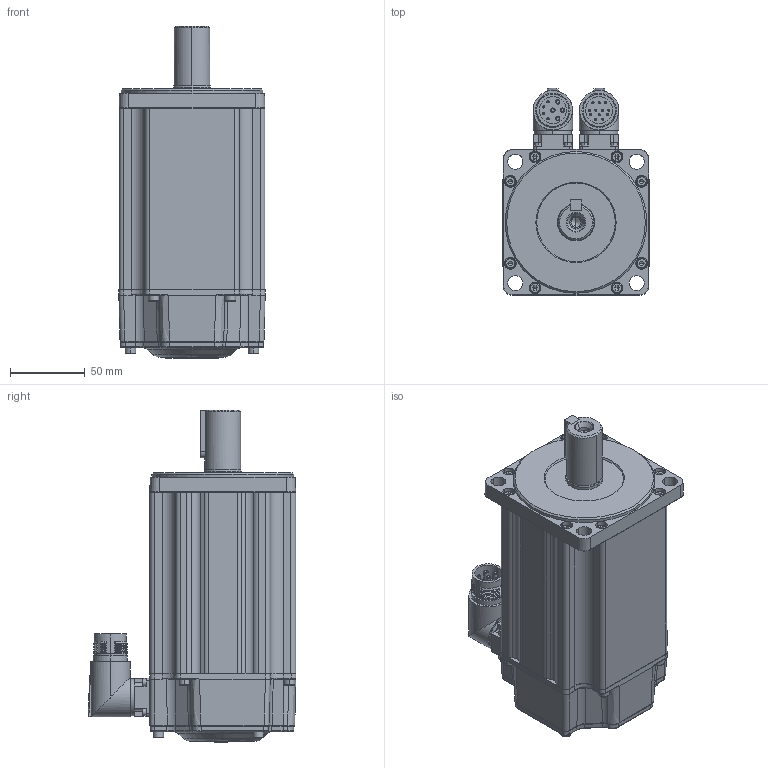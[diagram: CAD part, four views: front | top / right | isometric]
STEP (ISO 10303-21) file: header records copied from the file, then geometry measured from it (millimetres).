
FILE_DESCRIPTION (( 'STEP AP203' ), '1' );
FILE_NAME ('MC20-100-3L30-N202-0¡õPK-NNNN.STEP', '2025-05-04T13:26:57', ( '' ), ( '' ), 'SwSTEP 2.0', 'SolidWorks 2014', '' );
FILE_SCHEMA (( 'CONFIG_CONTROL_DESIGN' ));
Products named in the file (1): MC20-100-3L30-N202-0¡õPK-NNNN
Bounding box: 98.04 x 139.27 x 222.49 mm (x, y, z)
Volume: 1650827.4 mm3; surface area: 201043.1 mm2
Topology: 32 solids, 32 shells, 2072 faces, 4810 edges, 2855 vertices
Faces by surface type: plane 768, cylinder 544, cone 362, bspline 211, torus 182, sphere 5
Entity records: 64693 total; most frequent: CARTESIAN_POINT 18778, DIRECTION 9678, ORIENTED_EDGE 9432, EDGE_CURVE 4716, AXIS2_PLACEMENT_3D 3775, VERTEX_POINT 2855, EDGE_LOOP 2291, VECTOR 2128
